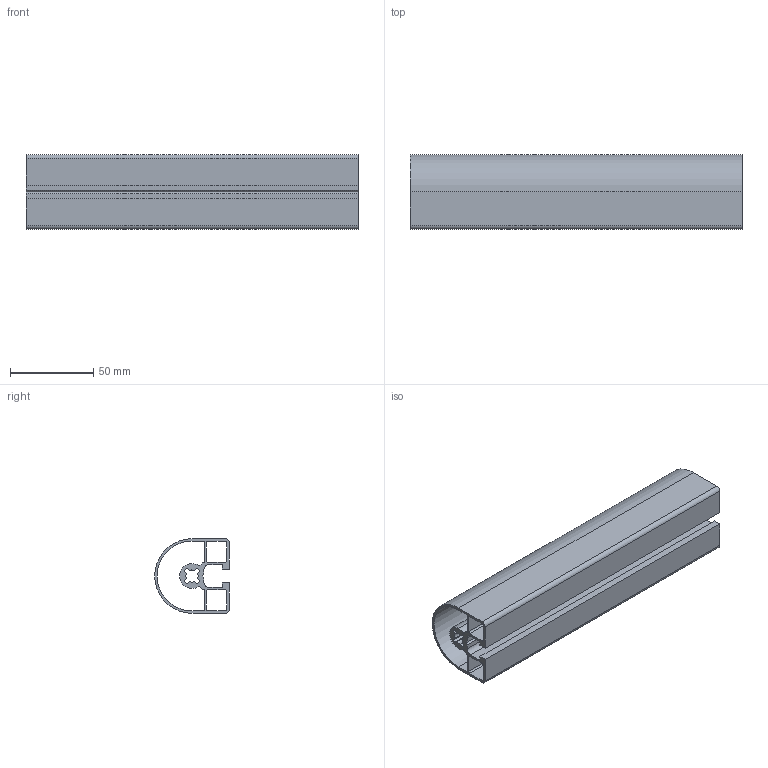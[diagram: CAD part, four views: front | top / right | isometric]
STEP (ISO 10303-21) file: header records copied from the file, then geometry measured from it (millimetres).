
FILE_DESCRIPTION (( 'STEP AP203' ), '1' );
FILE_NAME ('1.01.02.0020-profilo-alluminio-3D-45x45-tondo-corrimano-Milper.STEP', '2019-05-13T07:09:28', ( '' ), ( '' ), 'SwSTEP 2.0', 'SolidWorks 2019', '' );
FILE_SCHEMA (( 'CONFIG_CONTROL_DESIGN' ));
Length unit declared in the file: millimetre
Products named in the file (1): 1.01.02.0020-profilo-alluminio-3D-45x45-tondo-corrimano-Milper
Bounding box: 200 x 45 x 45 mm (x, y, z)
Volume: 87277.7 mm3; surface area: 96645.9 mm2
Topology: 1 solids, 1 shells, 93 faces, 273 edges, 182 vertices
Faces by surface type: cylinder 53, plane 40
Entity records: 3226 total; most frequent: DIRECTION 567, CARTESIAN_POINT 549, ORIENTED_EDGE 546, EDGE_CURVE 273, AXIS2_PLACEMENT_3D 200, VERTEX_POINT 182, VECTOR 167, LINE 167
